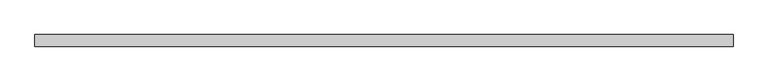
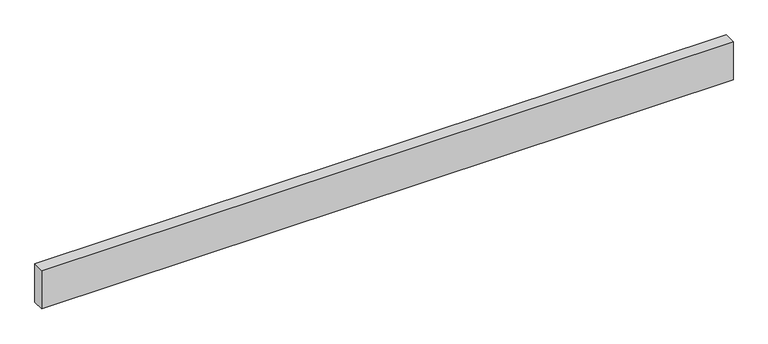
"""IFC4 building model written with IfcOpenShell, lengths in millimetres: furniture geometry, Frontispício : Frontispício."""

from ifc_helpers import new_model, si_unit, origin, origin_with_axes, place, context, project, spatial, polyline, outline, extrude, source, transform, mapped, element, save


def furniture_9ec81271(model_context):
    return source(origin(), model_context, "Body", "SweptSolid", [
        extrude(outline(polyline([(173.677619, 0.0), (173.677619, -20.0), (-1026.322381, -20.0), (-1026.322381, 0.0), (173.677619, 0.0)])), origin_with_axes(), (0.0, 0.0, 1.0), 70.0),
    ])


if __name__ == "__main__":
    model = new_model("IFC4")
    model_context = context("Model", 3, world=origin())
    ifc_project = project(units=[si_unit("LENGTHUNIT", "METRE", prefix="MILLI")], contexts=[model_context])
    site = spatial("IfcSite", under=ifc_project)
    building = spatial("IfcBuilding", under=site)
    placement = place(None, origin())
    furniture_shape = furniture_9ec81271(model_context)
    element("IfcFurniture", 1, ObjectType="Frontispício : Frontispício", at=placement, inside=building, context=model_context, shape_type="MappedRepresentation", body=[
        mapped(furniture_shape, transform((0.0, 0.0, 0.0), x_axis=(1.0, 0.0, 0.0), y_axis=(0.0, 1.0, 0.0), z_axis=(0.0, 0.0, 1.0))),
    ])
    save(model, "model.ifc")
